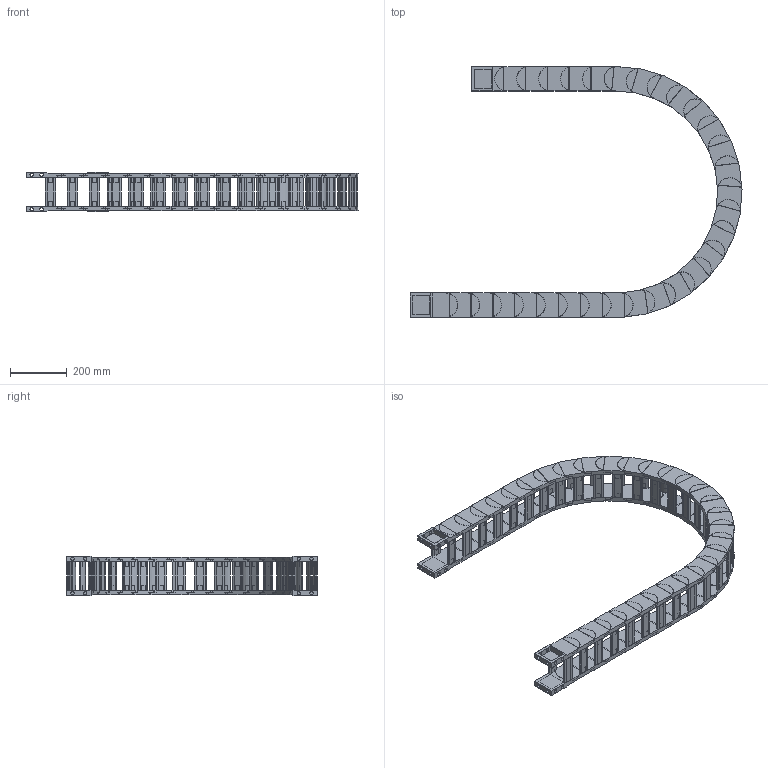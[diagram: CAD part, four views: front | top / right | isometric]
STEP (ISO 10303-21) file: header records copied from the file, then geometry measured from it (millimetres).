
FILE_DESCRIPTION((''),'2;1');
FILE_NAME('HD65-R400-ZPT_ASM','2022-06-18T11:00:32',('admin'),(''),'CREO PARAMETRIC BY PTC INC, 2021164','CREO PARAMETRIC BY PTC INC, 2021164','');
FILE_SCHEMA(('CONFIG_CONTROL_DESIGN','GEOMETRIC_VALIDATION_PROPERTIES_MIM'));
Length unit declared in the file: millimetre
Products named in the file (6): HD65; 65-50HDQSYP; HD65_ASM; H65-T1; H65-T2; HD65-R400-ZPT_ASM
Assembly tree (35 placements, depth 3):
  HD65-R400-ZPT_ASM
    HD65_ASM  x29
      HD65
      65-50HDQSYP
    H65-T1
    H65-T2
    65-50HDQSYP  x2
Bounding box: 1173.19 x 885.73 x 140.3 mm (x, y, z)
Volume: 8756803.1 mm3; surface area: 2618882.3 mm2
Topology: 124 solids, 124 shells, 2276 faces, 5998 edges, 4098 vertices
Faces by surface type: plane 1752, cylinder 524
Entity records: 9004 total; most frequent: CARTESIAN_POINT 1346, DIRECTION 1314, ORIENTED_EDGE 1212, EDGE_CURVE 606, AXIS2_PLACEMENT_3D 445, VECTOR 424, LINE 424, VERTEX_POINT 410
